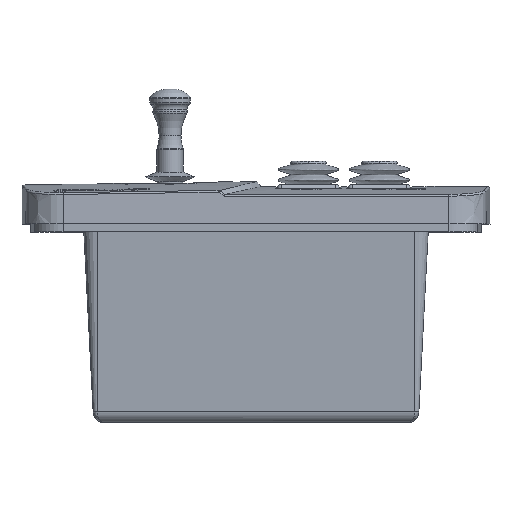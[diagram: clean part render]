
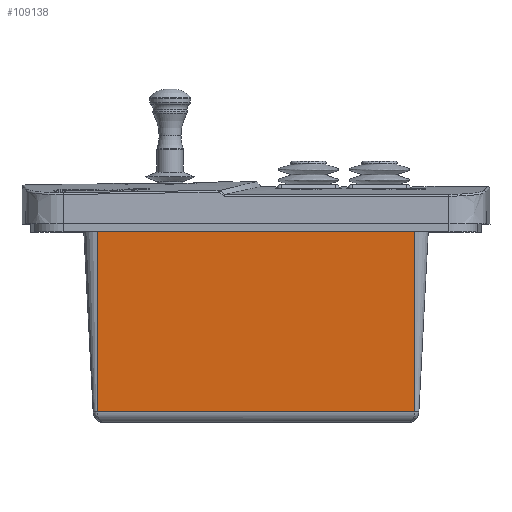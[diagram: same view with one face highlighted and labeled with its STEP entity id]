
A CAD part, top view. The second image highlights one B-rep face of the part: STEP entity #109138.
In plain terms, the highlighted planar face has unit normal (0, -0.052, 0.999) as drawn and (0, -0.999, 0.052) by its records, which use the part's own axes.
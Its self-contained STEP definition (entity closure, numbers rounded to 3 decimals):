
#6538 = ORIENTED_EDGE ( 'NONE', *, *, #27820, .T. ) ;
#20031 = ORIENTED_EDGE ( 'NONE', *, *, #149840, .F. ) ;
#27820 = EDGE_CURVE ( 'NONE', #64639, #65960, #51755, .T. ) ;
#29076 = LINE ( 'NONE', #51374, #129460 ) ;
#34177 = CARTESIAN_POINT ( 'NONE',  ( 42.5, 136.11, 1.748 ) ) ;
#35867 = PLANE ( 'NONE',  #144583 ) ;
#46536 = VECTOR ( 'NONE', #133954, 1000. ) ;
#46873 = ORIENTED_EDGE ( 'NONE', *, *, #75104, .T. ) ;
#51374 = CARTESIAN_POINT ( 'NONE',  ( 42.5, 136.06, 0.8 ) ) ;
#51755 = LINE ( 'NONE', #87031, #46536 ) ;
#62069 = VECTOR ( 'NONE', #116127, 1000. ) ;
#64639 = VERTEX_POINT ( 'NONE', #73045 ) ;
#65960 = VERTEX_POINT ( 'NONE', #115335 ) ;
#67773 = VECTOR ( 'NONE', #80226, 1000. ) ;
#71623 = CARTESIAN_POINT ( 'NONE',  ( 42.5, 136.11, 1.748 ) ) ;
#73045 = CARTESIAN_POINT ( 'NONE',  ( 42.5, 138.794, 52.957 ) ) ;
#75104 = EDGE_CURVE ( 'NONE', #65960, #118675, #128433, .T. ) ;
#78303 = CARTESIAN_POINT ( 'NONE',  ( -42.5, 136.11, 1.748 ) ) ;
#80226 = DIRECTION ( 'NONE',  ( 1., 0., 0. ) ) ;
#80309 = EDGE_CURVE ( 'NONE', #118675, #105481, #138663, .T. ) ;
#87031 = CARTESIAN_POINT ( 'NONE',  ( -42.5, 138.794, 52.957 ) ) ;
#91954 = CARTESIAN_POINT ( 'NONE',  ( 57.382, 136.06, 0.8 ) ) ;
#97885 = ORIENTED_EDGE ( 'NONE', *, *, #80309, .T. ) ;
#105481 = VERTEX_POINT ( 'NONE', #71623 ) ;
#109138 = ADVANCED_FACE ( 'NONE', ( #150375 ), #35867, .T. ) ;
#115335 = CARTESIAN_POINT ( 'NONE',  ( -42.5, 138.794, 52.957 ) ) ;
#116127 = DIRECTION ( 'NONE',  ( 0., -0.052, -0.999 ) ) ;
#118675 = VERTEX_POINT ( 'NONE', #78303 ) ;
#127325 = DIRECTION ( 'NONE',  ( 0., -0.052, -0.999 ) ) ;
#128433 = LINE ( 'NONE', #137701, #62069 ) ;
#129460 = VECTOR ( 'NONE', #145836, 1000. ) ;
#133954 = DIRECTION ( 'NONE',  ( -1., 0., 0. ) ) ;
#137701 = CARTESIAN_POINT ( 'NONE',  ( -42.5, 136.06, 0.8 ) ) ;
#138663 = LINE ( 'NONE', #34177, #67773 ) ;
#144583 = AXIS2_PLACEMENT_3D ( 'NONE', #91954, #149610, #127325 ) ;
#145836 = DIRECTION ( 'NONE',  ( 0., -0.052, -0.999 ) ) ;
#148651 = EDGE_LOOP ( 'NONE', ( #20031, #6538, #46873, #97885 ) ) ;
#149610 = DIRECTION ( 'NONE',  ( 0., -0.999, 0.052 ) ) ;
#149840 = EDGE_CURVE ( 'NONE', #64639, #105481, #29076, .T. ) ;
#150375 = FACE_OUTER_BOUND ( 'NONE', #148651, .T. ) ;
